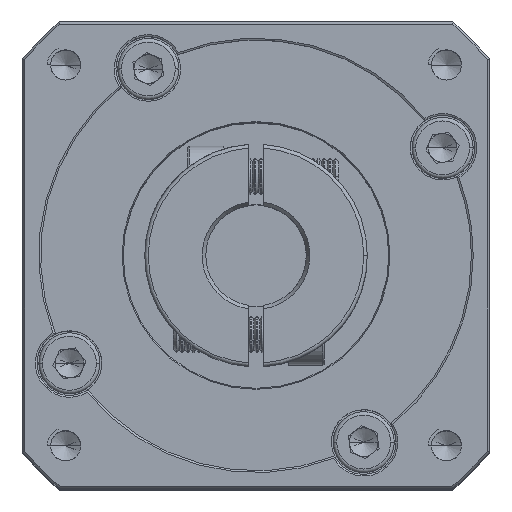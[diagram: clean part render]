
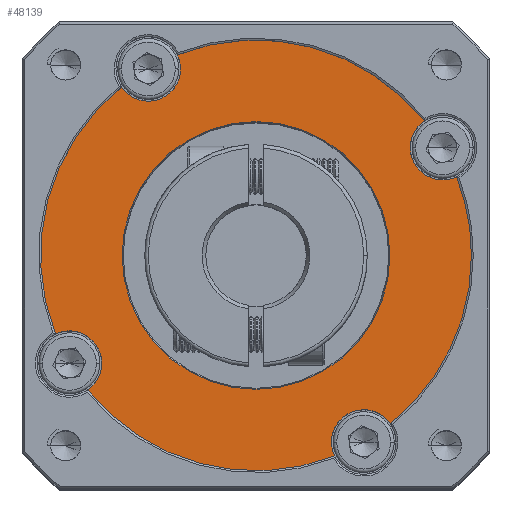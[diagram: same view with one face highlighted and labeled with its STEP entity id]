
A CAD part, top view. The second image highlights one B-rep face of the part: STEP entity #48139.
In plain terms, the highlighted planar face has unit normal (0, 0, 1).
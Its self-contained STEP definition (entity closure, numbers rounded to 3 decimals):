
#610 = CARTESIAN_POINT ( 'NONE',  ( -36.499, 17.821, -2.424 ) ) ;
#679 = DIRECTION ( 'NONE',  ( 1., 0., 0. ) ) ;
#1930 = CARTESIAN_POINT ( 'NONE',  ( -25.554, -10.111, -2.424 ) ) ;
#2239 = CARTESIAN_POINT ( 'NONE',  ( -13.054, 36.539, -2.424 ) ) ;
#2672 = DIRECTION ( 'NONE',  ( 0., 0., 1. ) ) ;
#2736 = AXIS2_PLACEMENT_3D ( 'NONE', #3959, #70747, #106653 ) ;
#3959 = CARTESIAN_POINT ( 'NONE',  ( -10.518, 32.821, -2.424 ) ) ;
#5058 = AXIS2_PLACEMENT_3D ( 'NONE', #610, #8739, #27494 ) ;
#5838 = EDGE_CURVE ( 'NONE', #22412, #21791, #98154, .T. ) ;
#7385 = DIRECTION ( 'NONE',  ( 1., 0., 0. ) ) ;
#8614 = VERTEX_POINT ( 'NONE', #30676 ) ;
#8739 = DIRECTION ( 'NONE',  ( 0., 0., -1. ) ) ;
#8806 = CARTESIAN_POINT ( 'NONE',  ( -21.499, -8.16, -2.424 ) ) ;
#10752 = DIRECTION ( 'NONE',  ( 1., 0., 0. ) ) ;
#11884 = EDGE_CURVE ( 'NONE', #61167, #63320, #97838, .T. ) ;
#12240 = CARTESIAN_POINT ( 'NONE',  ( -10.518, 32.821, -2.424 ) ) ;
#13464 = DIRECTION ( 'NONE',  ( 0., 0., 1. ) ) ;
#15213 = AXIS2_PLACEMENT_3D ( 'NONE', #52155, #13464, #117367 ) ;
#16838 = CARTESIAN_POINT ( 'NONE',  ( -17.855, 17.821, -2.424 ) ) ;
#17228 = DIRECTION ( 'NONE',  ( 0., 0., 1. ) ) ;
#17379 = DIRECTION ( 'NONE',  ( 1., 0., 0. ) ) ;
#17552 = ORIENTED_EDGE ( 'NONE', *, *, #35438, .T. ) ;
#18145 = AXIS2_PLACEMENT_3D ( 'NONE', #91897, #55556, #101602 ) ;
#18620 = VERTEX_POINT ( 'NONE', #19972 ) ;
#19972 = CARTESIAN_POINT ( 'NONE',  ( -6.499, 17.821, -2.424 ) ) ;
#21791 = VERTEX_POINT ( 'NONE', #1930 ) ;
#22412 = VERTEX_POINT ( 'NONE', #35267 ) ;
#22850 = AXIS2_PLACEMENT_3D ( 'NONE', #25410, #44140, #63323 ) ;
#24688 = VERTEX_POINT ( 'NONE', #80150 ) ;
#25127 = AXIS2_PLACEMENT_3D ( 'NONE', #33954, #80487, #53896 ) ;
#25410 = CARTESIAN_POINT ( 'NONE',  ( -21.499, -8.16, -2.424 ) ) ;
#25548 = DIRECTION ( 'NONE',  ( 0., 0., 1. ) ) ;
#25821 = DIRECTION ( 'NONE',  ( 1., 0., 0. ) ) ;
#26472 = AXIS2_PLACEMENT_3D ( 'NONE', #39365, #2672, #114350 ) ;
#27119 = DIRECTION ( 'NONE',  ( 0., 0., 1. ) ) ;
#27200 = EDGE_CURVE ( 'NONE', #24688, #107732, #82638, .T. ) ;
#27494 = DIRECTION ( 'NONE',  ( 1., 0., 0. ) ) ;
#29105 = CIRCLE ( 'NONE', #49931, 4.5 ) ;
#29393 = CIRCLE ( 'NONE', #77769, 30. ) ;
#30676 = CARTESIAN_POINT ( 'NONE',  ( -64.431, 6.876, -2.424 ) ) ;
#31206 = CIRCLE ( 'NONE', #15213, 4.5 ) ;
#31232 = EDGE_CURVE ( 'NONE', #80288, #94296, #110906, .T. ) ;
#31418 = DIRECTION ( 'NONE',  ( 0., 0., 1. ) ) ;
#31643 = EDGE_CURVE ( 'NONE', #94296, #73387, #81587, .T. ) ;
#33379 = ORIENTED_EDGE ( 'NONE', *, *, #79233, .F. ) ;
#33954 = CARTESIAN_POINT ( 'NONE',  ( -36.499, 17.821, -2.424 ) ) ;
#35267 = CARTESIAN_POINT ( 'NONE',  ( -25.999, -8.16, -2.424 ) ) ;
#35438 = EDGE_CURVE ( 'NONE', #80288, #119390, #96305, .T. ) ;
#38218 = ORIENTED_EDGE ( 'NONE', *, *, #31643, .F. ) ;
#39286 = AXIS2_PLACEMENT_3D ( 'NONE', #45848, #73955, #10752 ) ;
#39365 = CARTESIAN_POINT ( 'NONE',  ( -36.499, 17.821, -2.424 ) ) ;
#39975 = DIRECTION ( 'NONE',  ( 0., 0., 1. ) ) ;
#41878 = CIRCLE ( 'NONE', #39286, 4.5 ) ;
#43120 = VERTEX_POINT ( 'NONE', #93496 ) ;
#43605 = CARTESIAN_POINT ( 'NONE',  ( -51.499, 43.802, -2.424 ) ) ;
#43685 = DIRECTION ( 'NONE',  ( 0., 0., 1. ) ) ;
#44140 = DIRECTION ( 'NONE',  ( 0., 0., 1. ) ) ;
#45285 = ORIENTED_EDGE ( 'NONE', *, *, #31232, .F. ) ;
#45848 = CARTESIAN_POINT ( 'NONE',  ( -51.499, 43.802, -2.424 ) ) ;
#47660 = ORIENTED_EDGE ( 'NONE', *, *, #112913, .T. ) ;
#47939 = ORIENTED_EDGE ( 'NONE', *, *, #11884, .T. ) ;
#48139 = ADVANCED_FACE ( 'NONE', ( #55863, #103892 ), #110197, .T. ) ;
#48960 = DIRECTION ( 'NONE',  ( 1., 0., 0. ) ) ;
#49337 = DIRECTION ( 'NONE',  ( 1., 0., 0. ) ) ;
#49492 = AXIS2_PLACEMENT_3D ( 'NONE', #12240, #39975, #49337 ) ;
#49931 = AXIS2_PLACEMENT_3D ( 'NONE', #43605, #61176, #88867 ) ;
#50171 = CARTESIAN_POINT ( 'NONE',  ( -55.143, 17.821, -2.424 ) ) ;
#51842 = EDGE_CURVE ( 'NONE', #43120, #119390, #29105, .T. ) ;
#52074 = ORIENTED_EDGE ( 'NONE', *, *, #112929, .F. ) ;
#52155 = CARTESIAN_POINT ( 'NONE',  ( -62.48, 2.821, -2.424 ) ) ;
#52529 = EDGE_LOOP ( 'NONE', ( #47939, #57331 ) ) ;
#52924 = EDGE_CURVE ( 'NONE', #63320, #61167, #112567, .T. ) ;
#53896 = DIRECTION ( 'NONE',  ( 1., 0., 0. ) ) ;
#55556 = DIRECTION ( 'NONE',  ( 0., 0., 1. ) ) ;
#55863 = FACE_BOUND ( 'NONE', #52529, .T. ) ;
#57331 = ORIENTED_EDGE ( 'NONE', *, *, #52924, .T. ) ;
#58390 = CARTESIAN_POINT ( 'NONE',  ( -55.216, 41.266, -2.424 ) ) ;
#59275 = CIRCLE ( 'NONE', #22850, 4.5 ) ;
#61167 = VERTEX_POINT ( 'NONE', #16838 ) ;
#61176 = DIRECTION ( 'NONE',  ( 0., 0., 1. ) ) ;
#62639 = CIRCLE ( 'NONE', #26472, 30. ) ;
#63320 = VERTEX_POINT ( 'NONE', #50171 ) ;
#63323 = DIRECTION ( 'NONE',  ( 1., 0., 0. ) ) ;
#63427 = ORIENTED_EDGE ( 'NONE', *, *, #96263, .T. ) ;
#63632 = CARTESIAN_POINT ( 'NONE',  ( -62.48, 2.821, -2.424 ) ) ;
#65380 = ORIENTED_EDGE ( 'NONE', *, *, #51842, .F. ) ;
#66455 = ORIENTED_EDGE ( 'NONE', *, *, #27200, .F. ) ;
#66561 = EDGE_LOOP ( 'NONE', ( #66455, #47660, #97059, #52074, #75887, #63427, #38218, #45285, #17552, #65380, #104541, #89851, #33379 ) ) ;
#66609 = AXIS2_PLACEMENT_3D ( 'NONE', #73459, #17228, #25821 ) ;
#69084 = CIRCLE ( 'NONE', #75915, 30. ) ;
#70747 = DIRECTION ( 'NONE',  ( 0., 0., 1. ) ) ;
#73202 = CARTESIAN_POINT ( 'NONE',  ( -36.499, 17.821, -2.424 ) ) ;
#73387 = VERTEX_POINT ( 'NONE', #110453 ) ;
#73459 = CARTESIAN_POINT ( 'NONE',  ( -36.499, 17.821, -2.424 ) ) ;
#73955 = DIRECTION ( 'NONE',  ( 0., 0., 1. ) ) ;
#75887 = ORIENTED_EDGE ( 'NONE', *, *, #82428, .T. ) ;
#75915 = AXIS2_PLACEMENT_3D ( 'NONE', #73202, #25548, #17379 ) ;
#77769 = AXIS2_PLACEMENT_3D ( 'NONE', #120408, #27119, #92381 ) ;
#79233 = EDGE_CURVE ( 'NONE', #107732, #8614, #31206, .T. ) ;
#79427 = CARTESIAN_POINT ( 'NONE',  ( -47.444, 45.753, -2.424 ) ) ;
#80150 = CARTESIAN_POINT ( 'NONE',  ( -59.944, -0.896, -2.424 ) ) ;
#80238 = AXIS2_PLACEMENT_3D ( 'NONE', #63632, #43685, #7385 ) ;
#80288 = VERTEX_POINT ( 'NONE', #2239 ) ;
#80487 = DIRECTION ( 'NONE',  ( 0., 0., -1. ) ) ;
#81587 = CIRCLE ( 'NONE', #2736, 4.5 ) ;
#82428 = EDGE_CURVE ( 'NONE', #114618, #18620, #69084, .T. ) ;
#82638 = CIRCLE ( 'NONE', #80238, 4.5 ) ;
#88867 = DIRECTION ( 'NONE',  ( 1., 0., 0. ) ) ;
#89851 = ORIENTED_EDGE ( 'NONE', *, *, #93000, .T. ) ;
#91897 = CARTESIAN_POINT ( 'NONE',  ( -36.499, 17.821, -2.424 ) ) ;
#92381 = DIRECTION ( 'NONE',  ( 1., 0., 0. ) ) ;
#93000 = EDGE_CURVE ( 'NONE', #100208, #8614, #62639, .T. ) ;
#93496 = CARTESIAN_POINT ( 'NONE',  ( -46.999, 43.802, -2.424 ) ) ;
#93630 = DIRECTION ( 'NONE',  ( 0., 0., 1. ) ) ;
#94296 = VERTEX_POINT ( 'NONE', #99722 ) ;
#95440 = AXIS2_PLACEMENT_3D ( 'NONE', #8806, #93630, #679 ) ;
#96263 = EDGE_CURVE ( 'NONE', #18620, #73387, #29393, .T. ) ;
#96305 = CIRCLE ( 'NONE', #110211, 30. ) ;
#97059 = ORIENTED_EDGE ( 'NONE', *, *, #5838, .F. ) ;
#97838 = CIRCLE ( 'NONE', #5058, 18.644 ) ;
#98154 = CIRCLE ( 'NONE', #95440, 4.5 ) ;
#99722 = CARTESIAN_POINT ( 'NONE',  ( -15.018, 32.821, -2.424 ) ) ;
#100208 = VERTEX_POINT ( 'NONE', #58390 ) ;
#101602 = DIRECTION ( 'NONE',  ( 1., 0., 0. ) ) ;
#102958 = CIRCLE ( 'NONE', #66609, 30. ) ;
#103892 = FACE_OUTER_BOUND ( 'NONE', #66561, .T. ) ;
#104541 = ORIENTED_EDGE ( 'NONE', *, *, #112573, .F. ) ;
#104783 = CARTESIAN_POINT ( 'NONE',  ( -36.499, 17.821, -2.424 ) ) ;
#106653 = DIRECTION ( 'NONE',  ( 1., 0., 0. ) ) ;
#107533 = CARTESIAN_POINT ( 'NONE',  ( -17.782, -5.624, -2.424 ) ) ;
#107732 = VERTEX_POINT ( 'NONE', #116724 ) ;
#110197 = PLANE ( 'NONE',  #18145 ) ;
#110211 = AXIS2_PLACEMENT_3D ( 'NONE', #104783, #31418, #48960 ) ;
#110453 = CARTESIAN_POINT ( 'NONE',  ( -8.567, 28.766, -2.424 ) ) ;
#110906 = CIRCLE ( 'NONE', #49492, 4.5 ) ;
#112567 = CIRCLE ( 'NONE', #25127, 18.644 ) ;
#112573 = EDGE_CURVE ( 'NONE', #100208, #43120, #41878, .T. ) ;
#112913 = EDGE_CURVE ( 'NONE', #24688, #21791, #102958, .T. ) ;
#112929 = EDGE_CURVE ( 'NONE', #114618, #22412, #59275, .T. ) ;
#114350 = DIRECTION ( 'NONE',  ( 1., 0., 0. ) ) ;
#114618 = VERTEX_POINT ( 'NONE', #107533 ) ;
#116724 = CARTESIAN_POINT ( 'NONE',  ( -57.98, 2.821, -2.424 ) ) ;
#117367 = DIRECTION ( 'NONE',  ( 1., 0., 0. ) ) ;
#119390 = VERTEX_POINT ( 'NONE', #79427 ) ;
#120408 = CARTESIAN_POINT ( 'NONE',  ( -36.499, 17.821, -2.424 ) ) ;
